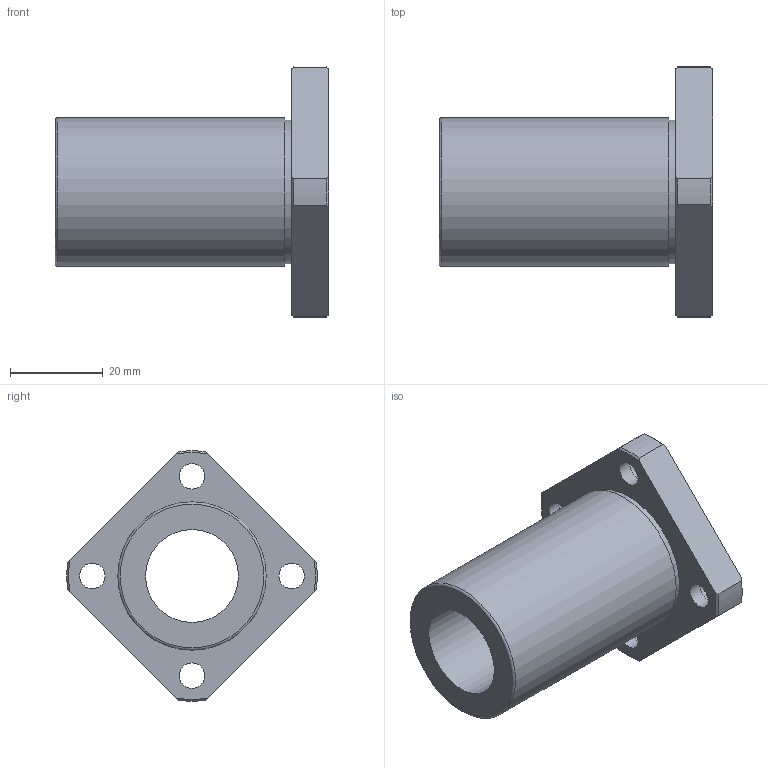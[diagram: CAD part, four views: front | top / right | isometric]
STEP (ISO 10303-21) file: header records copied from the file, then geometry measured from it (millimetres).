
FILE_DESCRIPTION(('STEP AP203'),'1');
FILE_NAME('//192.168.1.1/share/s-4 技術開発/s-4-4_CAD/s-4-4-3_見直し済み/002 修正済み/NFES-VM(済)/NFES-VM_TOP/NFES-20VM.step','2022-03-08T01:15:42',(' '),(' '),'Spatial InterOp 3D',' ',' ');
FILE_SCHEMA(('CONFIG_CONTROL_DESIGN'));
Length unit declared in the file: millimetre
Products named in the file (1): 1
Bounding box: 59 x 53.97 x 53.97 mm (x, y, z)
Volume: 34695 mm3; surface area: 13589.9 mm2
Topology: 1 solids, 1 shells, 36 faces, 91 edges, 63 vertices
Faces by surface type: cylinder 15, plane 12, cone 8, torus 1
Full cylindrical faces by diameter (mm): 5.5 x4, 9 x4, 20 x1, 31 x1, 32 x1
Entity records: 1026 total; most frequent: CARTESIAN_POINT 195, DIRECTION 168, ORIENTED_EDGE 142, AXIS2_PLACEMENT_3D 76, EDGE_CURVE 71, EDGE_LOOP 64, VERTEX_POINT 55, FACE_OUTER_BOUND 48
